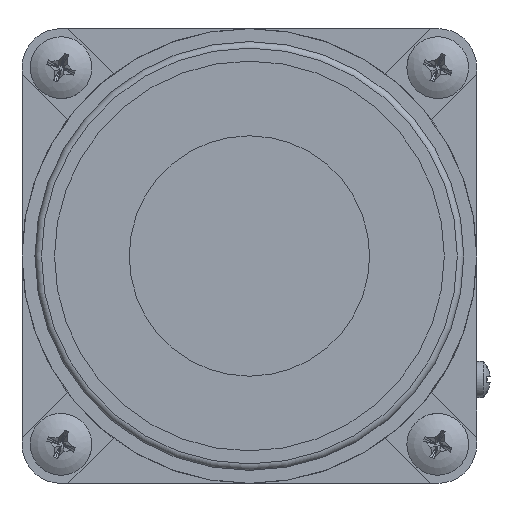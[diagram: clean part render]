
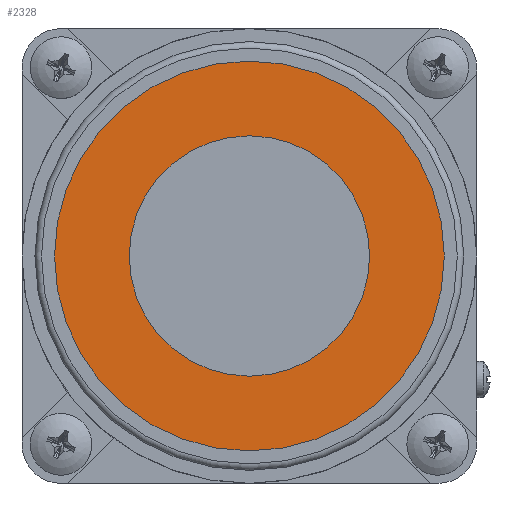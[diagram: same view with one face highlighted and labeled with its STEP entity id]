
A CAD part, left-side view. The second image highlights one B-rep face of the part: STEP entity #2328.
In plain terms, the highlighted planar face has unit normal (-1, 0, 0).
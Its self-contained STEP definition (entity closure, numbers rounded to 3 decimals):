
#1911=PLANE('',#7452);
#2328=ADVANCED_FACE('',(#2937,#2938),#1911,.T.);
#2937=FACE_BOUND('',#3404,.T.);
#2938=FACE_BOUND('',#3405,.T.);
#3404=EDGE_LOOP('',(#4762));
#3405=EDGE_LOOP('',(#4763));
#4762=ORIENTED_EDGE('',*,*,#6335,.F.);
#4763=ORIENTED_EDGE('',*,*,#6334,.F.);
#5588=VERTEX_POINT('',#11848);
#5589=VERTEX_POINT('',#11851);
#6334=EDGE_CURVE('',#5588,#5588,#6738,.T.);
#6335=EDGE_CURVE('',#5589,#5589,#6739,.T.);
#6738=CIRCLE('',#7449,30.);
#6739=CIRCLE('',#7451,18.5);
#7449=AXIS2_PLACEMENT_3D('',#11847,#8563,#8564);
#7451=AXIS2_PLACEMENT_3D('',#11850,#8567,#8568);
#7452=AXIS2_PLACEMENT_3D('',#11852,#8569,#8570);
#8563=DIRECTION('',(1.,0.,0.));
#8564=DIRECTION('',(0.,0.,-1.));
#8567=DIRECTION('',(-1.,0.,0.));
#8568=DIRECTION('',(0.,0.,-1.));
#8569=DIRECTION('',(-1.,0.,0.));
#8570=DIRECTION('',(0.,0.,-1.));
#11847=CARTESIAN_POINT('',(-91.,0.,0.));
#11848=CARTESIAN_POINT('',(-91.,0.,-30.));
#11850=CARTESIAN_POINT('',(-91.,0.,0.));
#11851=CARTESIAN_POINT('',(-91.,0.,-18.5));
#11852=CARTESIAN_POINT('',(-91.,0.,0.));
